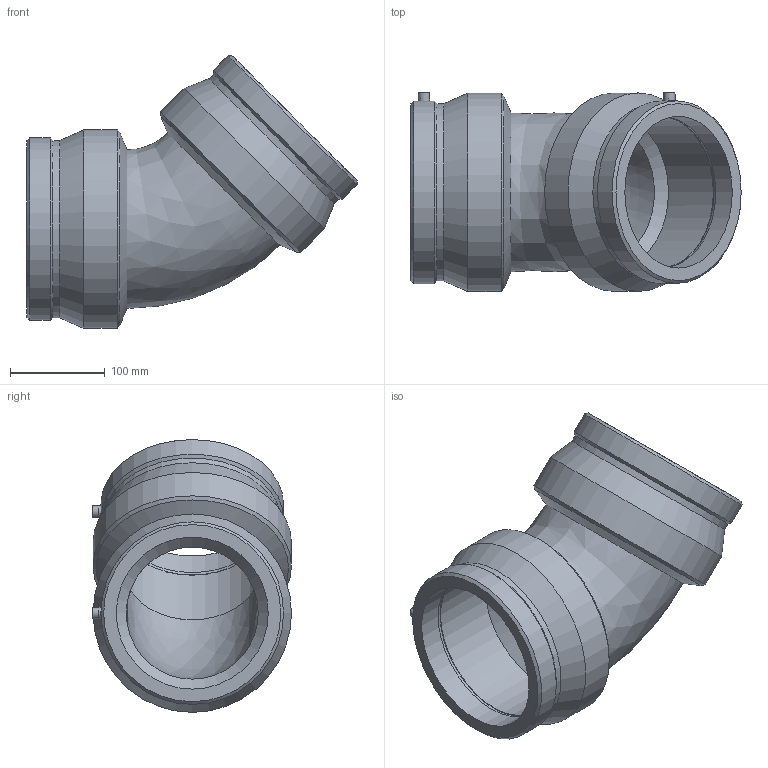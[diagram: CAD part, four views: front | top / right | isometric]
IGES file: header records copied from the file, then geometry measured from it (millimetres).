
Global section: file name: 490604160.ipt; native system: Autodesk Inventor 2015; preprocessor: unknown; author: KIM; date: 20171106.093657; units: millimetre
Bounding box: 347.96 x 209.5 x 287.26 mm (x, y, z)
Volume: 3118996.6 mm3; surface area: 387685.9 mm2
Topology: 1 solids, 1 shells, 42 faces, 98 edges, 64 vertices
Faces by surface type: revolution 12, cone 10, cylinder 10, plane 10
Full cylindrical faces by diameter (mm): 4.8 x2, 12 x2, 186.512 x2, 192.28 x2, 209 x2
